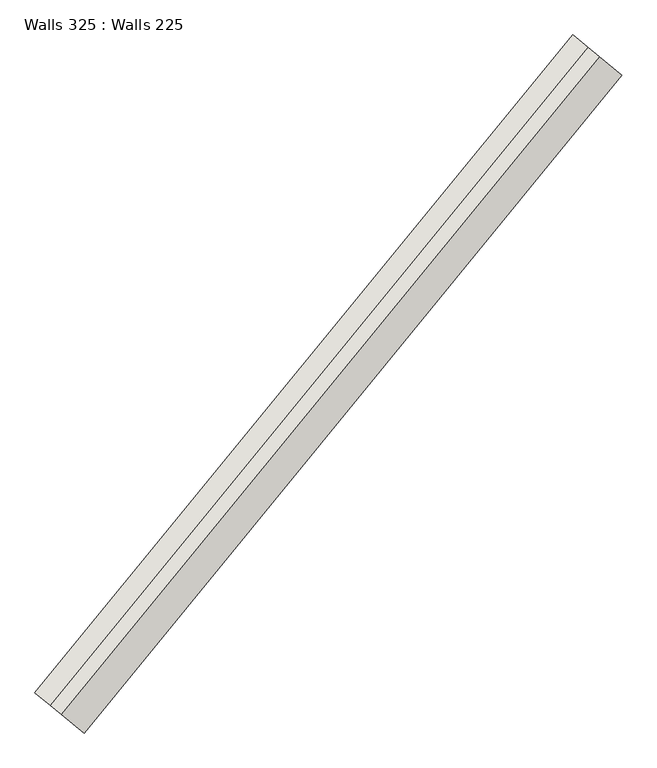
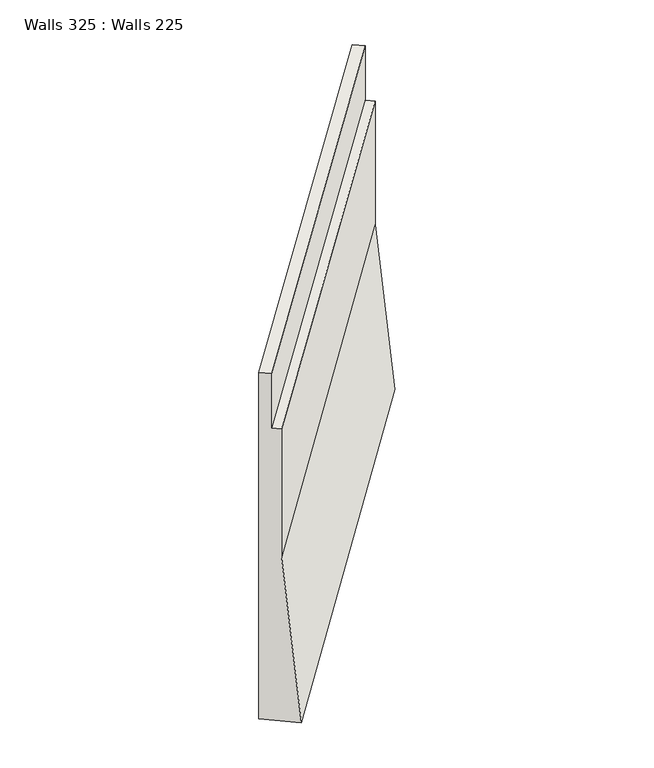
"""IFC4 building model written with IfcOpenShell, lengths in millimetres: wall geometry, Walls 325 : Walls 225."""

import ifcopenshell
import ifcopenshell.guid

model = None  # the IFC model being written
_history = None  # IfcOwnerHistory: only IFC2X3 demands one
_inside = {}  # id of a spatial element -> (the spatial element, [elements in it])
_under = {}  # id of a project, library or spatial element -> (it, [spatial elements below it])
_declared = {}  # id of a project -> (the project, [libraries it declares])
_typed = {}  # id of a type object -> (the type object, [elements of that type])
_made_of = {}  # id of a material, layer set ... -> (it, [elements and type objects made of it])


def new_model(schema):
    """Start an empty IFC model of exactly this schema.

    Asked for "IFC4X3", IfcOpenShell would pick the latest addendum, in which some entities
    have other attributes; the version numbers below select the first issue.
    IFC2X3 requires an IfcOwnerHistory on every rooted entity: one is made here for all.
    """
    global model, _history
    if schema == "IFC4X3":
        model = ifcopenshell.file(schema_version=(4, 3, 0, 0))
    else:
        model = ifcopenshell.file(schema=schema)
    _inside.clear()
    _under.clear()
    _declared.clear()
    _typed.clear()
    _made_of.clear()
    _history = None
    if model.schema == "IFC2X3":
        org = make("IfcOrganization", Name="unknown")
        user = make(
            "IfcPersonAndOrganization",
            ThePerson=make("IfcPerson", FamilyName="unknown"),
            TheOrganization=org,
        )
        app = make(
            "IfcApplication",
            ApplicationDeveloper=org,
            Version="unknown",
            ApplicationFullName="unknown",
            ApplicationIdentifier="unknown",
        )
        _history = make(
            "IfcOwnerHistory",
            OwningUser=user,
            OwningApplication=app,
            ChangeAction="ADDED",
            CreationDate=0,
        )
    return model


def make(cls, **values):
    """One entity of the class cls with the attributes given. An attribute that is None is left unset."""
    return model.create_entity(
        cls, **{name: value for name, value in values.items() if value is not None}
    )


def rooted(cls, **values):
    """An entity with a GlobalId (a new one), such as an element, a storey or a relation."""
    return make(cls, GlobalId=ifcopenshell.guid.new(), OwnerHistory=_history, **values)


def si_unit(unit_type, name, prefix=None):
    """IfcSIUnit, for example si_unit("LENGTHUNIT", "METRE", prefix="MILLI")."""
    return make("IfcSIUnit", UnitType=unit_type, Prefix=prefix, Name=name)


def assignment(units):
    """IfcUnitAssignment: the units of a project."""
    return None if units is None else make("IfcUnitAssignment", Units=units)


def point(xyz):
    """IfcCartesianPoint."""
    return None if xyz is None else make("IfcCartesianPoint", Coordinates=xyz)


def direction(xyz):
    """IfcDirection."""
    return None if xyz is None else make("IfcDirection", DirectionRatios=xyz)


def frame(location, z_axis=None, x_axis=None):
    """IfcAxis2Placement3D, a coordinate frame: its origin and axes. An axis left out is left unset."""
    return make(
        "IfcAxis2Placement3D",
        Location=point(location),
        Axis=direction(z_axis),
        RefDirection=direction(x_axis),
    )


def origin():
    """The frame at (0, 0, 0) with its axes left unset."""
    return frame((0.0, 0.0, 0.0))


def place(relative_to, where):
    """IfcLocalPlacement: puts the frame where relative to a parent placement (None: the world)."""
    return make(
        "IfcLocalPlacement", PlacementRelTo=relative_to, RelativePlacement=where
    )


def context(
    kind, dimensions, precision=None, world=None, true_north=None, identifier=None
):
    """IfcGeometricRepresentationContext, for example the 3D "Model" context."""
    return make(
        "IfcGeometricRepresentationContext",
        ContextIdentifier=identifier,
        ContextType=kind,
        CoordinateSpaceDimension=dimensions,
        Precision=precision,
        WorldCoordinateSystem=world,
        TrueNorth=true_north,
    )


def project(units=None, contexts=None):
    """IfcProject with its units and contexts."""
    return rooted(
        "IfcProject",
        Name="project",
        RepresentationContexts=contexts,
        UnitsInContext=assignment(units),
    )


def spatial(cls, under=None, at=None, **own):
    """A site, building, storey or space (cls), placed at a placement, below another one or the project."""
    s = rooted(cls, ObjectPlacement=at, **own)
    if under is not None:
        _under.setdefault(under.id(), (under, []))[1].append(s)
    return s


def faces_of(points, faces, orient=None, outer=None):
    """IfcFace entities. A face is a list of loops; a loop is a list of indices into points, from 0.

    orient and outer hold one flag for each loop. By default every Orientation is true, the
    first loop of a face is its IfcFaceOuterBound and the others are IfcFaceBound.
    """
    made = []
    for i, loops in enumerate(faces):
        bounds = []
        for j, loop in enumerate(loops):
            is_outer = j == 0 if outer is None else outer[i][j]
            bounds.append(
                make(
                    "IfcFaceOuterBound" if is_outer else "IfcFaceBound",
                    Bound=make("IfcPolyLoop", Polygon=[points[k] for k in loop]),
                    Orientation=True if orient is None else orient[i][j],
                )
            )
        made.append(make("IfcFace", Bounds=bounds))
    return made


def faceted_brep(points, faces, orient=None, outer=None, voids=None):
    """IfcFacetedBrep: a solid bounded by flat faces; with voids (closed shells), ...WithVoids."""
    shared = [point(p) for p in points]
    hull = make("IfcClosedShell", CfsFaces=faces_of(shared, faces, orient, outer))
    if voids is None:
        return make("IfcFacetedBrep", Outer=hull)
    return make(
        "IfcFacetedBrepWithVoids",
        Outer=hull,
        Voids=[
            make(cls, CfsFaces=faces_of(shared, fs, o, b)) for cls, fs, o, b in voids
        ],
    )


def shape(context_of_items, identifier, shape_type, items):
    """IfcShapeRepresentation: the items that make up one representation, for example the "Body"."""
    return make(
        "IfcShapeRepresentation",
        ContextOfItems=context_of_items,
        RepresentationIdentifier=identifier,
        RepresentationType=shape_type,
        Items=items,
    )


def source(mapping_origin, context_of_items, identifier, shape_type, items):
    """IfcRepresentationMap: a shape defined once, which mapped items show again and again."""
    return make(
        "IfcRepresentationMap",
        MappingOrigin=mapping_origin,
        MappedRepresentation=shape(context_of_items, identifier, shape_type, items),
    )


def transform(
    local_origin,
    x_axis=None,
    y_axis=None,
    z_axis=None,
    scale=None,
    scale2=None,
    scale3=None,
    uniform=True,
):
    """IfcCartesianTransformationOperator3D, or its non-uniform kind. x_axis, y_axis, z_axis: its Axis1, 2, 3."""
    if uniform:
        return make(
            "IfcCartesianTransformationOperator3D",
            Axis1=direction(x_axis),
            Axis2=direction(y_axis),
            LocalOrigin=point(local_origin),
            Scale=scale,
            Axis3=direction(z_axis),
        )
    return make(
        "IfcCartesianTransformationOperator3DnonUniform",
        Axis1=direction(x_axis),
        Axis2=direction(y_axis),
        LocalOrigin=point(local_origin),
        Scale=scale,
        Axis3=direction(z_axis),
        Scale2=scale2,
        Scale3=scale3,
    )


def mapped(mapping_source, mapping_target):
    """IfcMappedItem: shows the shape of a source again, moved by a transform."""
    return make(
        "IfcMappedItem", MappingSource=mapping_source, MappingTarget=mapping_target
    )


def made_of(thing, what):
    """Note that an element or type object is made of a material, layer set ...; save() writes the relation."""
    if what is not None:
        _made_of.setdefault(what.id(), (what, []))[1].append(thing)
    return thing


def element(
    cls,
    number,
    at=None,
    inside=None,
    cuts=None,
    type_object=None,
    material=None,
    context=None,
    identifier="Body",
    shape_type=None,
    held_by="IfcProductDefinitionShape",
    body=None,
    shapes=None,
    **own,
):
    """One element of the class cls, such as IfcWall. Its Tag is "e" and its number.

    at: its placement. inside: the storey or other place that contains it. cuts: it is an
    opening in that element (IfcRelVoidsElement). A single representation is given by context,
    identifier, shape_type and body (its items); several are given by shapes. held_by: the class
    of the entity that holds the representations. save() writes the other relations.
    """
    e = rooted(cls, Tag="e%d" % number, ObjectPlacement=at, **own)
    if body is not None:
        shapes = [shape(context, identifier, shape_type, body)]
    if shapes is not None:
        e.Representation = make(held_by, Representations=shapes)
    if inside is not None:
        _inside.setdefault(inside.id(), (inside, []))[1].append(e)
    if cuts is not None:
        rooted(
            "IfcRelVoidsElement", RelatingBuildingElement=cuts, RelatedOpeningElement=e
        )
    if type_object is not None:
        _typed.setdefault(type_object.id(), (type_object, []))[1].append(e)
    return made_of(e, material)


def aggregate(whole, parts):
    """IfcRelAggregates: a whole, such as a stair, and the parts it consists of."""
    return rooted("IfcRelAggregates", RelatingObject=whole, RelatedObjects=parts)


def save(model, path):
    """Write the relations noted so far, then the file.

    IfcRelAggregates (storeys below a building ...), IfcRelContainedInSpatialStructure (elements
    in a storey), IfcRelDefinesByType, IfcRelAssociatesMaterial and IfcRelDeclares: one each for
    every whole, place, type object, material and project.
    """
    for whole, parts in _under.values():
        aggregate(whole, parts)
    for where, things in _inside.values():
        rooted(
            "IfcRelContainedInSpatialStructure",
            RelatedElements=things,
            RelatingStructure=where,
        )
    for kind, things in _typed.values():
        rooted("IfcRelDefinesByType", RelatedObjects=things, RelatingType=kind)
    for what, things in _made_of.values():
        rooted("IfcRelAssociatesMaterial", RelatedObjects=things, RelatingMaterial=what)
    for by, libraries in _declared.values():
        rooted("IfcRelDeclares", RelatingContext=by, RelatedDefinitions=libraries)
    model.write(path)


def walls_325_walls_225_01b20782(model_context):
    return source(origin(), model_context, "Body", "Brep", [
        faceted_brep([(399808.7882806, 272366.7373389, 652197.0), (399808.7882806, 272366.7373389, 645826.0), (400311.8636525, 271955.1365977, 645826.0), (400079.6750193, 272145.1061706, 648826.0), (400079.6750193, 272145.1061706, 651197.0), (399963.5807027, 272240.090957, 651197.0), (399963.5807027, 272240.090957, 652197.0), (405317.9058934, 279100.2077009, 652208.0), (405472.6983156, 278973.561319, 652208.0), (405472.6983156, 278973.561319, 651208.0), (405588.7926322, 278878.5765326, 651208.0), (405588.7926322, 278878.5765326, 648938.0), (405820.9812654, 278688.6069597, 645938.0), (405317.9058934, 279100.2077009, 645938.0)], [[[0, 1, 2, 3, 4, 5, 6]], [[7, 8, 9, 10, 11, 12, 13]], [[7, 13, 1, 0]], [[13, 12, 2, 1]], [[12, 11, 3, 2]], [[11, 10, 4, 3]], [[10, 9, 5, 4]], [[9, 8, 6, 5]], [[8, 7, 0, 6]]]),
    ])


if __name__ == "__main__":
    model = new_model("IFC4")
    model_context = context("Model", 3, world=origin())
    ifc_project = project(units=[si_unit("LENGTHUNIT", "METRE", prefix="MILLI")], contexts=[model_context])
    site = spatial("IfcSite", under=ifc_project)
    building = spatial("IfcBuilding", under=site)
    placement = place(None, origin())
    walls_325_walls_225_shape = walls_325_walls_225_01b20782(model_context)
    element("IfcWall", 1, ObjectType="Walls 325 : Walls 225", at=placement, inside=building, context=model_context, shape_type="MappedRepresentation", body=[
        mapped(walls_325_walls_225_shape, transform((0.0, 0.0, 0.0), x_axis=(1.0, 0.0, 0.0), y_axis=(0.0, 1.0, 0.0), z_axis=(0.0, 0.0, 1.0))),
    ])
    save(model, "model.ifc")
